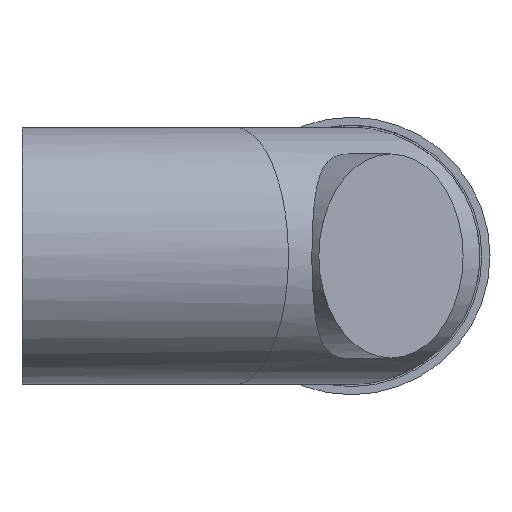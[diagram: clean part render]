
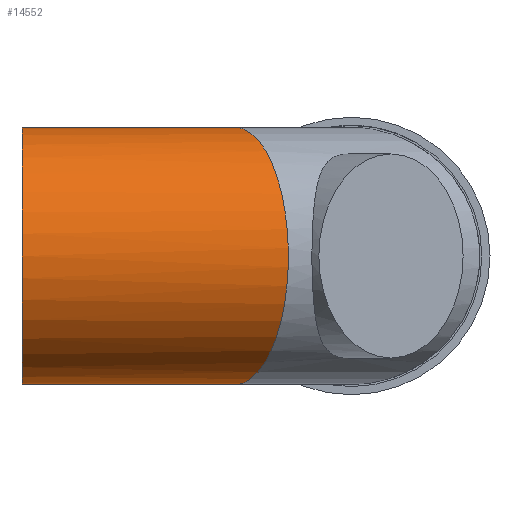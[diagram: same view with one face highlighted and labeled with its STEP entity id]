
A CAD part, front view. The second image highlights one B-rep face of the part: STEP entity #14552.
In plain terms, the highlighted cylindrical face has radius 80.01 mm (diameter 160.02 mm), a full revolution.
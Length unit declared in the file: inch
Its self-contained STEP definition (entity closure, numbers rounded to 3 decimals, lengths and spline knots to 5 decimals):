
#14486=CARTESIAN_POINT('',(-2.84692,0.,-3.15));
#14487=VERTEX_POINT('',#14486);
#14488=CARTESIAN_POINT('',(-2.84692,0.,3.15));
#14489=VERTEX_POINT('',#14488);
#14490=CARTESIAN_POINT('',(-2.84692,0.0,0.0));
#14491=DIRECTION('',(-0.924,-0.383,0.0));
#14492=DIRECTION('',(-0.383,0.924,0.0));
#14493=AXIS2_PLACEMENT_3D('',#14490,#14491,#14492);
#14494=ELLIPSE('',#14493,3.40954,3.15);
#14495=EDGE_CURVE('',#14487,#14489,#14494,.T.);
#14497=CARTESIAN_POINT('',(-2.84692,0.0,0.0));
#14498=DIRECTION('',(-0.924,-0.383,0.0));
#14499=DIRECTION('',(-0.383,0.924,0.0));
#14500=AXIS2_PLACEMENT_3D('',#14497,#14498,#14499);
#14501=ELLIPSE('',#14500,3.40954,3.15);
#14502=EDGE_CURVE('',#14489,#14487,#14501,.T.);
#14532=CARTESIAN_POINT('',(-8.07,0.0,0.0));
#14533=DIRECTION('',(1.0,0.0,0.0));
#14534=DIRECTION('',(0.0,1.0,0.0));
#14535=AXIS2_PLACEMENT_3D('',#14532,#14533,#14534);
#14536=CYLINDRICAL_SURFACE('',#14535,3.15);
#14537=ORIENTED_EDGE('',*,*,#14495,.T.);
#14538=ORIENTED_EDGE('',*,*,#14502,.T.);
#14539=EDGE_LOOP('',(#14537,#14538));
#14540=FACE_OUTER_BOUND('',#14539,.T.);
#14541=CARTESIAN_POINT('',(-8.07,-3.15,0.));
#14542=VERTEX_POINT('',#14541);
#14543=CARTESIAN_POINT('',(-8.07,0.0,0.0));
#14544=DIRECTION('',(1.0,0.0,0.0));
#14545=DIRECTION('',(0.0,1.0,0.0));
#14546=AXIS2_PLACEMENT_3D('',#14543,#14544,#14545);
#14547=CIRCLE('',#14546,3.15);
#14548=EDGE_CURVE('',#14542,#14542,#14547,.T.);
#14549=ORIENTED_EDGE('',*,*,#14548,.T.);
#14550=EDGE_LOOP('',(#14549));
#14551=FACE_BOUND('',#14550,.T.);
#14552=ADVANCED_FACE('',(#14540,#14551),#14536,.T.);
